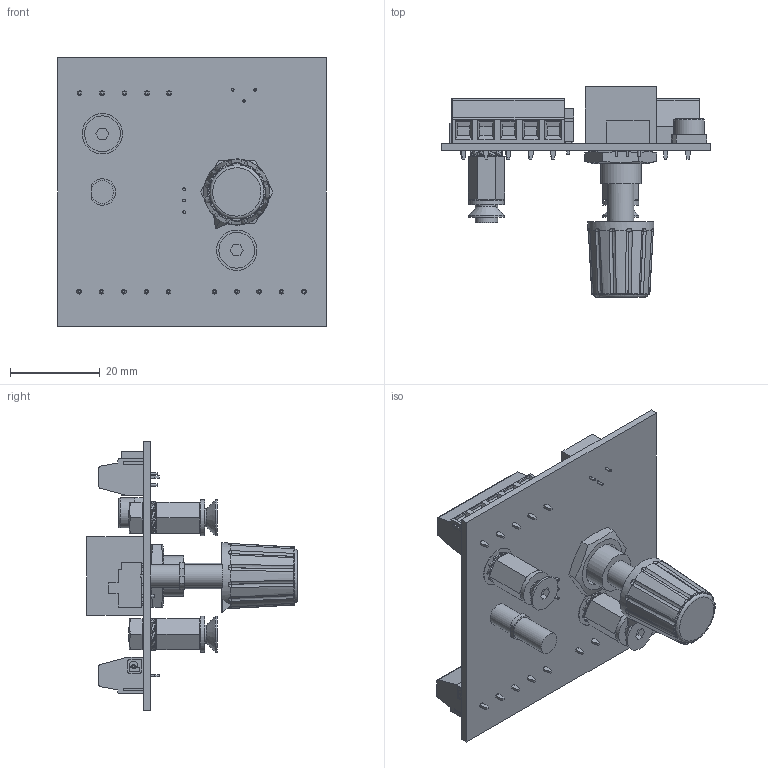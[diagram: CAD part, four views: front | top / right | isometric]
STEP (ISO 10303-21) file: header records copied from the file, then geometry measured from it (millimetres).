
FILE_DESCRIPTION(('ONLY FOR INFORMATION','HiCAD-Model','HiCAD-STEP-TRANSLATION'),'2;1');
FILE_NAME('Q:/##','2012-00-00',('D&E Department'),('Simco-Ion Europe','Aalsvoort 74','NL-7241 MB LOCHEM','www.simco-ion.nl'),' HiCAD 2011, Step 1600.0 ','HiCAD 2011','confidential');
FILE_SCHEMA(('AUTOMOTIVE_DESIGN { 1 2 10303 214 0 1 1 1 }'));
Length unit declared in the file: millimetre
Products named in the file (13): SIMCO_ION_EXTERNAL_CONTROL_KIT ; ISO 4032_M4_10_HEXAGON NUTS_0; ISO040320M40100HEXAGON0NUTS00; A210160425_SCHROEF VK_BZK M4X8; A2101604250SCHROEF0VK0BZK0M4X8; KARTEL_RING; ISO 8738_4_160 HV_WASHERS FOR; KARTEL0RING; ISO087380401600HV0WASHERS0FOR; A240510410_BUS AFST_ M4X10X6MM; A2405104100BUS0AFST00M4X10X6MM; A_KNOB; A_PCB
Assembly tree (12 placements, depth 2):
  SIMCO_ION_EXTERNAL_CONTROL_KIT 
    ISO 4032_M4_10_HEXAGON NUTS_0
    ISO040320M40100HEXAGON0NUTS00
    A210160425_SCHROEF VK_BZK M4X8
    A2101604250SCHROEF0VK0BZK0M4X8
    KARTEL_RING
    ISO 8738_4_160 HV_WASHERS FOR
    KARTEL0RING
    ISO087380401600HV0WASHERS0FOR
    A240510410_BUS AFST_ M4X10X6MM
    A2405104100BUS0AFST00M4X10X6MM
    A_KNOB
    A_PCB
Bounding box: 60 x 47.02 x 60 mm (x, y, z)
Volume: 19314.2 mm3; surface area: 17858 mm2
Topology: 15 solids, 20 shells, 1267 faces, 3213 edges, 2110 vertices
Faces by surface type: plane 873, cylinder 288, cone 43, torus 39, bspline 24
Full cylindrical faces by diameter (mm): 0.457 x3, 0.5 x3, 0.6 x9, 1 x3, 1.1 x1, 1.509 x15, 3 x1, 3.141 x4, 3.83 x15, 4 x10, 4.16 x2, 4.25 x1, 4.7 x2, 5 x2, 5.8 x1, 5.9 x2, 6.7 x2, 7 x1, 8 x4, 8.8 x2, 9 x3, 9.08 x1, 9.8 x3, 10 x1
Entity records: 61281 total; most frequent: CARTESIAN_POINT 8786, DIRECTION 6203, ORIENTED_EDGE 6048, COLOUR_RGB 3896, PRESENTATION_STYLE_ASSIGNMENT 3896, OVER_RIDING_STYLED_ITEM 3884, EDGE_CURVE 3024, CURVE_STYLE 2905
